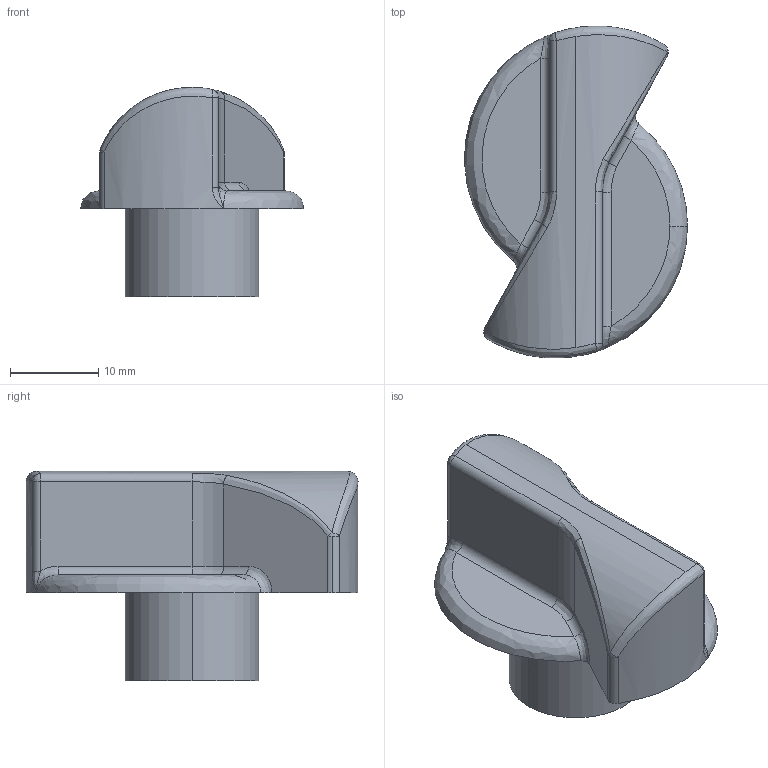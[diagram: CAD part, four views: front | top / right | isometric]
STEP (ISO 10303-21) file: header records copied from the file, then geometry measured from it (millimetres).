
FILE_DESCRIPTION (( 'STEP AP214' ), '1' );
FILE_NAME ('2.KLT9.001PA.STEP', '2016-08-31T11:05:05', ( '' ), ( '' ), 'SwSTEP 2.0', 'SolidWorks 2015', '' );
FILE_SCHEMA (( 'AUTOMOTIVE_DESIGN' ));
Length unit declared in the file: millimetre
Products named in the file (1): 2.KLT9.001PA
Bounding box: 25.33 x 37.69 x 23.77 mm (x, y, z)
Volume: 6041.5 mm3; surface area: 3764.2 mm2
Topology: 1 solids, 1 shells, 61 faces, 144 edges, 83 vertices
Faces by surface type: cylinder 26, bspline 21, plane 14
Entity records: 2580 total; most frequent: CARTESIAN_POINT 1333, ORIENTED_EDGE 276, DIRECTION 222, EDGE_CURVE 138, AXIS2_PLACEMENT_3D 88, VERTEX_POINT 83, EDGE_LOOP 65, FACE_OUTER_BOUND 61
